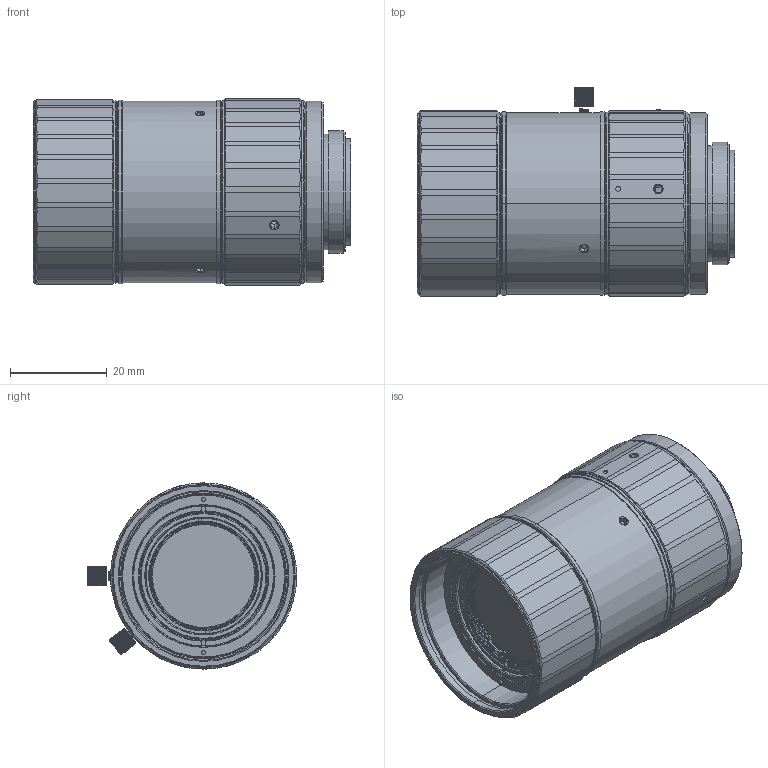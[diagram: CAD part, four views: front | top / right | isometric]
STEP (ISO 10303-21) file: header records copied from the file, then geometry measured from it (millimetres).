
FILE_DESCRIPTION((''),'2;1');
FILE_NAME('FA2540M25Q1_2_ASM','2025-02-25T11:31:41',('re_ay'),(''),'CREO PARAMETRIC BY PTC INC, 2023073','CREO PARAMETRIC BY PTC INC, 2023073','');
FILE_SCHEMA(('CONFIG_CONTROL_DESIGN'));
Length unit declared in the file: metre
Products named in the file (24): FA2540M25Q1_2_1_1; FA2540M25Q1_2_2; FA2540M25Q1_2_3; FA2540M25Q1_2_4; FA2540M25Q1_2_5; FA2540M25Q1_2_6; FA2540M25Q1_2_7; FA2540M25Q1_2_8; FA2540M25Q1_2_9; FA2540M25Q1_2_10; FA2540M25Q1_2_11; FA2540M25Q1_2_12; FA2540M25Q1_2_13; FA2540M25Q1_2_14; FA2540M25Q1_2_15; FA2540M25Q1_2_16; FA2540M25Q1_2_17; FA2540M25Q1_2_18; FA2540M25Q1_2_19; FA2540M25Q1_2_20; FA2540M25Q1_2_21; FA2540M25Q1_2_22; FA2540M25Q1_2_1_ASM; FA2540M25Q1_2_ASM
Assembly tree (23 placements, depth 3):
  FA2540M25Q1_2_ASM
    FA2540M25Q1_2_1_ASM
      FA2540M25Q1_2_1_1
      FA2540M25Q1_2_2
      FA2540M25Q1_2_3
      FA2540M25Q1_2_4
      FA2540M25Q1_2_5
      FA2540M25Q1_2_6
      FA2540M25Q1_2_7
      FA2540M25Q1_2_8
      FA2540M25Q1_2_9
      FA2540M25Q1_2_10
      FA2540M25Q1_2_11
      FA2540M25Q1_2_12
      FA2540M25Q1_2_13
      FA2540M25Q1_2_14
      FA2540M25Q1_2_15
      FA2540M25Q1_2_16
      FA2540M25Q1_2_17
      FA2540M25Q1_2_18
      FA2540M25Q1_2_19
      FA2540M25Q1_2_20
      FA2540M25Q1_2_21
      FA2540M25Q1_2_22
Bounding box: 65.74 x 43.4 x 38.6 mm (x, y, z)
Surface area: 14913.5 mm2 (no closed solid volume)
Topology: 0 solids, 22 shells, 647 faces, 2342 edges, 1629 vertices
Faces by surface type: plane 288, cylinder 234, cone 106, torus 12, bspline 5, sphere 2
Entity records: 31035 total; most frequent: CARTESIAN_POINT 11289, DIRECTION 3966, ORIENTED_EDGE 3927, EDGE_CURVE 2340, VERTEX_POINT 1629, AXIS2_PLACEMENT_3D 1510, VECTOR 946, LINE 946
